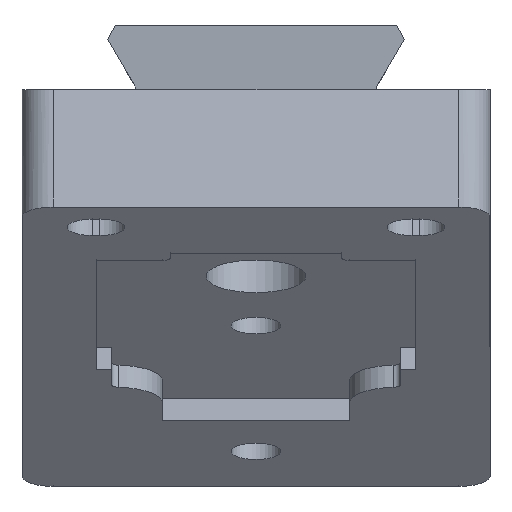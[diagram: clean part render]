
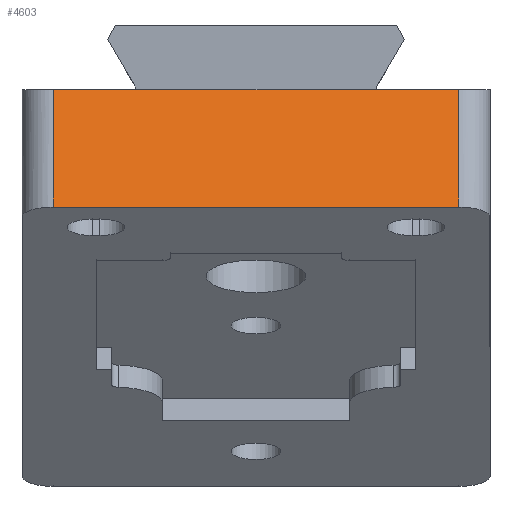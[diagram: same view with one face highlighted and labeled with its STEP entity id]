
A CAD part, left-side view. The second image highlights one B-rep face of the part: STEP entity #4603.
In plain terms, the highlighted planar face has unit normal (-0.946, 0, 0.326).
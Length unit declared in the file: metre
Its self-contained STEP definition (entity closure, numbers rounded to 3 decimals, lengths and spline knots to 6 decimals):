
#664=ORIENTED_EDGE('',*,*,#1842,.T.);
#665=ORIENTED_EDGE('',*,*,#2020,.T.);
#666=ORIENTED_EDGE('',*,*,#1771,.F.);
#667=ORIENTED_EDGE('',*,*,#2021,.T.);
#668=ORIENTED_EDGE('',*,*,#1854,.T.);
#669=ORIENTED_EDGE('',*,*,#2015,.T.);
#1771=EDGE_CURVE('',#2468,#2469,#2932,.T.);
#1842=EDGE_CURVE('',#2530,#2537,#2978,.T.);
#1854=EDGE_CURVE('',#2546,#2522,#2984,.T.);
#2015=EDGE_CURVE('',#2522,#2530,#3070,.T.);
#2020=EDGE_CURVE('',#2537,#2469,#3071,.T.);
#2021=EDGE_CURVE('',#2468,#2546,#3072,.F.);
#2468=VERTEX_POINT('',#6184);
#2469=VERTEX_POINT('',#6186);
#2522=VERTEX_POINT('',#6299);
#2530=VERTEX_POINT('',#6317);
#2537=VERTEX_POINT('',#6334);
#2546=VERTEX_POINT('',#6356);
#2932=LINE('',#6185,#3388);
#2978=LINE('',#6335,#3434);
#2984=LINE('',#6355,#3440);
#3070=LINE('',#6779,#3526);
#3071=LINE('',#6791,#3527);
#3072=LINE('',#6792,#3528);
#3388=VECTOR('',#5155,1.);
#3434=VECTOR('',#5271,1.);
#3440=VECTOR('',#5289,1.);
#3526=VECTOR('',#5433,1.);
#3527=VECTOR('',#5452,1.);
#3528=VECTOR('',#5453,1.);
#3886=EDGE_LOOP('',(#664,#665,#666,#667,#668,#669));
#4184=FACE_BOUND('',#3886,.T.);
#4454=PLANE('',#4936);
#4603=ADVANCED_FACE('',(#4184),#4454,.F.);
#4936=AXIS2_PLACEMENT_3D('',#6790,#5450,#5451);
#5155=DIRECTION('',(0.,1.,0.));
#5271=DIRECTION('',(0.,1.,0.));
#5289=DIRECTION('',(0.,1.,0.));
#5433=DIRECTION('',(0.,1.,0.));
#5450=DIRECTION('',(0.946,0.,-0.326));
#5451=DIRECTION('',(-0.326,0.,-0.946));
#5452=DIRECTION('',(-0.326,0.,-0.946));
#5453=DIRECTION('',(-0.326,0.,-0.946));
#6184=CARTESIAN_POINT('',(-0.002592,-0.013,-0.007528));
#6185=CARTESIAN_POINT('',(-0.002592,-0.015,-0.007528));
#6186=CARTESIAN_POINT('',(-0.002592,0.013,-0.007528));
#6299=CARTESIAN_POINT('',(0.,-0.007695,0.));
#6317=CARTESIAN_POINT('',(0.,0.007695,0.));
#6334=CARTESIAN_POINT('',(0.,0.013,0.));
#6335=CARTESIAN_POINT('',(0.,-0.015,0.));
#6355=CARTESIAN_POINT('',(0.,-0.015,0.));
#6356=CARTESIAN_POINT('',(0.,-0.013,0.));
#6779=CARTESIAN_POINT('',(0.,0.,0.));
#6790=CARTESIAN_POINT('',(-0.001296,-0.015,-0.003764));
#6791=CARTESIAN_POINT('',(-0.001296,0.013,-0.003764));
#6792=CARTESIAN_POINT('',(0.,-0.013,0.));
